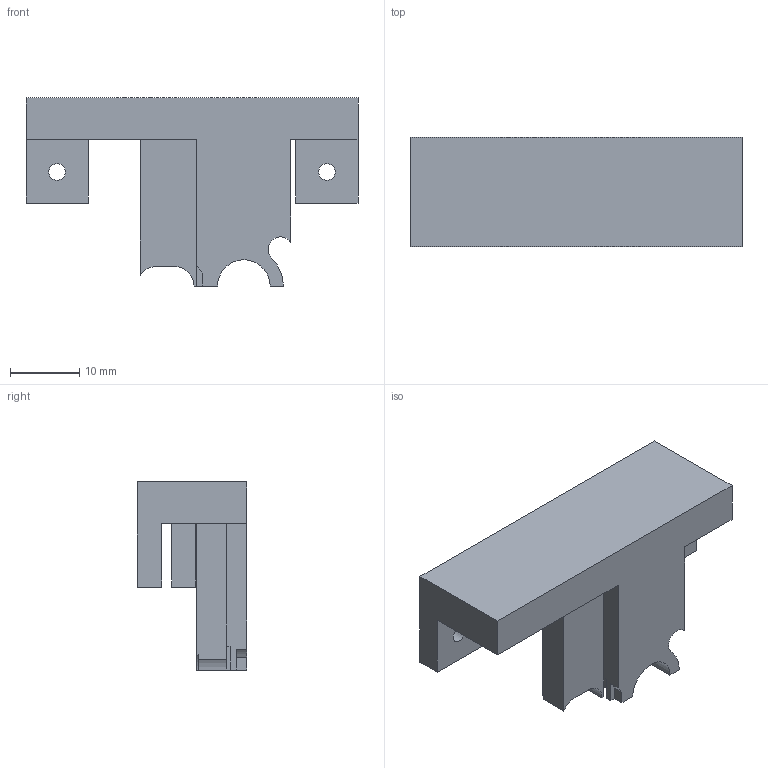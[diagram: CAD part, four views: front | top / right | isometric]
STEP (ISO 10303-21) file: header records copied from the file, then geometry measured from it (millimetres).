
FILE_DESCRIPTION(('Open CASCADE Model'),'2;1');
FILE_NAME('P19-P19_distal_cap.step', '', ('Noah Wilson'), (''), '', '', '');
FILE_SCHEMA(('AUTOMOTIVE_DESIGN { 1 0 10303 214 1 1 1 1 }'));
Length unit declared in the file: millimetre
Products named in the file (1): COMPOUND
Bounding box: 48 x 15.8 x 27.2 mm (x, y, z)
Volume: 7515.4 mm3; surface area: 3990.5 mm2
Topology: 1 solids, 1 shells, 49 faces, 134 edges, 89 vertices
Faces by surface type: plane 36, cylinder 13
Full cylindrical faces by diameter (mm): 2.4 x2, 4.1 x2
Entity records: 3314 total; most frequent: CARTESIAN_POINT 713, DIRECTION 456, LINE 298, VECTOR 298, ORIENTED_EDGE 268, PCURVE 268, DEFINITIONAL_REPRESENTATION 268, EDGE_CURVE 134
